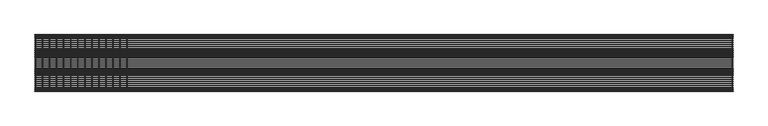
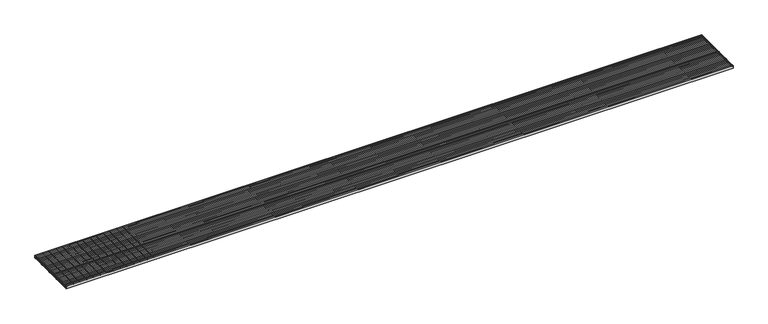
"""IFC4 building model written with IfcOpenShell, lengths in millimetres: proxy geometry, ARQ-PAS-Osogrid-Ace : ARQ-PAS-Osogrid-Ace."""

from ifc_helpers import new_model, si_unit, point, frame, frame_2d, origin, origin_with_axes, place, context, project, spatial, polyline, circle_curve, trimmed, segment, composite_curve, outline, extrude, source, transform, mapped, element, save


def generic_models_1a0a9cd3(model_context):
    return source(origin(), model_context, "Body", "SweptSolid", [
        extrude(outline(composite_curve([segment(trimmed(circle_curve(frame_2d((30.343695, -8342.1025358)), 3.0), [point((30.343695, -8345.1025358))], [point((30.343695, -8339.1025358))], False, "CARTESIAN"), True, "CONTINUOUS"), segment(trimmed(circle_curve(frame_2d((30.343695, -8342.1025358)), 3.0), [point((30.343695, -8339.1025358))], [point((30.343695, -8345.1025358))], False, "CARTESIAN"), True, "CONTINUOUS")], self_intersect=False)), frame((0.0, 2.5, 0.0), z_axis=(0.0, 1.0, 0.0), x_axis=(0.0, 0.0, 1.0)), (0.0, 0.0, 1.0), 775.0),
        extrude(outline(composite_curve([segment(trimmed(circle_curve(frame_2d((30.343695, -8438.9712227)), 3.0), [point((30.343695, -8441.9712227))], [point((30.343695, -8435.9712227))], False, "CARTESIAN"), True, "CONTINUOUS"), segment(trimmed(circle_curve(frame_2d((30.343695, -8438.9712227)), 3.0), [point((30.343695, -8435.9712227))], [point((30.343695, -8441.9712227))], False, "CARTESIAN"), True, "CONTINUOUS")], self_intersect=False)), frame((0.0, 2.5, 0.0), z_axis=(0.0, 1.0, 0.0), x_axis=(0.0, 0.0, 1.0)), (0.0, 0.0, 1.0), 775.0),
        extrude(outline(composite_curve([segment(trimmed(circle_curve(frame_2d((30.343695, -8535.8399096)), 3.0), [point((30.343695, -8538.8399096))], [point((30.343695, -8532.8399096))], False, "CARTESIAN"), True, "CONTINUOUS"), segment(trimmed(circle_curve(frame_2d((30.343695, -8535.8399096)), 3.0), [point((30.343695, -8532.8399096))], [point((30.343695, -8538.8399096))], False, "CARTESIAN"), True, "CONTINUOUS")], self_intersect=False)), frame((0.0, 2.5, 0.0), z_axis=(0.0, 1.0, 0.0), x_axis=(0.0, 0.0, 1.0)), (0.0, 0.0, 1.0), 775.0),
        extrude(outline(composite_curve([segment(trimmed(circle_curve(frame_2d((30.343695, -8632.7085964)), 3.0), [point((30.343695, -8635.7085964))], [point((30.343695, -8629.7085964))], False, "CARTESIAN"), True, "CONTINUOUS"), segment(trimmed(circle_curve(frame_2d((30.343695, -8632.7085964)), 3.0), [point((30.343695, -8629.7085964))], [point((30.343695, -8635.7085964))], False, "CARTESIAN"), True, "CONTINUOUS")], self_intersect=False)), frame((0.0, 2.5, 0.0), z_axis=(0.0, 1.0, 0.0), x_axis=(0.0, 0.0, 1.0)), (0.0, 0.0, 1.0), 775.0),
        extrude(outline(composite_curve([segment(trimmed(circle_curve(frame_2d((30.343695, -8729.5772833)), 3.0), [point((30.343695, -8732.5772833))], [point((30.343695, -8726.5772833))], False, "CARTESIAN"), True, "CONTINUOUS"), segment(trimmed(circle_curve(frame_2d((30.343695, -8729.5772833)), 3.0), [point((30.343695, -8726.5772833))], [point((30.343695, -8732.5772833))], False, "CARTESIAN"), True, "CONTINUOUS")], self_intersect=False)), frame((0.0, 2.5, 0.0), z_axis=(0.0, 1.0, 0.0), x_axis=(0.0, 0.0, 1.0)), (0.0, 0.0, 1.0), 775.0),
        extrude(outline(composite_curve([segment(trimmed(circle_curve(frame_2d((30.343695, -8826.4459702)), 3.0), [point((30.343695, -8829.4459702))], [point((30.343695, -8823.4459702))], False, "CARTESIAN"), True, "CONTINUOUS"), segment(trimmed(circle_curve(frame_2d((30.343695, -8826.4459702)), 3.0), [point((30.343695, -8823.4459702))], [point((30.343695, -8829.4459702))], False, "CARTESIAN"), True, "CONTINUOUS")], self_intersect=False)), frame((0.0, 2.5, 0.0), z_axis=(0.0, 1.0, 0.0), x_axis=(0.0, 0.0, 1.0)), (0.0, 0.0, 1.0), 775.0),
        extrude(outline(composite_curve([segment(trimmed(circle_curve(frame_2d((30.343695, -8923.314657)), 3.0), [point((30.343695, -8926.314657))], [point((30.343695, -8920.314657))], False, "CARTESIAN"), True, "CONTINUOUS"), segment(trimmed(circle_curve(frame_2d((30.343695, -8923.314657)), 3.0), [point((30.343695, -8920.314657))], [point((30.343695, -8926.314657))], False, "CARTESIAN"), True, "CONTINUOUS")], self_intersect=False)), frame((0.0, 2.5, 0.0), z_axis=(0.0, 1.0, 0.0), x_axis=(0.0, 0.0, 1.0)), (0.0, 0.0, 1.0), 775.0),
        extrude(outline(composite_curve([segment(trimmed(circle_curve(frame_2d((30.343695, -9020.1833439)), 3.0), [point((30.343695, -9023.1833439))], [point((30.343695, -9017.1833439))], False, "CARTESIAN"), True, "CONTINUOUS"), segment(trimmed(circle_curve(frame_2d((30.343695, -9020.1833439)), 3.0), [point((30.343695, -9017.1833439))], [point((30.343695, -9023.1833439))], False, "CARTESIAN"), True, "CONTINUOUS")], self_intersect=False)), frame((0.0, 2.5, 0.0), z_axis=(0.0, 1.0, 0.0), x_axis=(0.0, 0.0, 1.0)), (0.0, 0.0, 1.0), 775.0),
        extrude(outline(composite_curve([segment(trimmed(circle_curve(frame_2d((30.343695, -9117.0520308)), 3.0), [point((30.343695, -9120.0520308))], [point((30.343695, -9114.0520308))], False, "CARTESIAN"), True, "CONTINUOUS"), segment(trimmed(circle_curve(frame_2d((30.343695, -9117.0520308)), 3.0), [point((30.343695, -9114.0520308))], [point((30.343695, -9120.0520308))], False, "CARTESIAN"), True, "CONTINUOUS")], self_intersect=False)), frame((0.0, 2.5, 0.0), z_axis=(0.0, 1.0, 0.0), x_axis=(0.0, 0.0, 1.0)), (0.0, 0.0, 1.0), 775.0),
        extrude(outline(composite_curve([segment(trimmed(circle_curve(frame_2d((30.343695, -9213.9207177)), 3.0), [point((30.343695, -9216.9207177))], [point((30.343695, -9210.9207177))], False, "CARTESIAN"), True, "CONTINUOUS"), segment(trimmed(circle_curve(frame_2d((30.343695, -9213.9207177)), 3.0), [point((30.343695, -9210.9207177))], [point((30.343695, -9216.9207177))], False, "CARTESIAN"), True, "CONTINUOUS")], self_intersect=False)), frame((0.0, 2.5, 0.0), z_axis=(0.0, 1.0, 0.0), x_axis=(0.0, 0.0, 1.0)), (0.0, 0.0, 1.0), 775.0),
        extrude(outline(composite_curve([segment(trimmed(circle_curve(frame_2d((30.343695, -9310.7894045)), 3.0), [point((30.343695, -9313.7894045))], [point((30.343695, -9307.7894045))], False, "CARTESIAN"), True, "CONTINUOUS"), segment(trimmed(circle_curve(frame_2d((30.343695, -9310.7894045)), 3.0), [point((30.343695, -9307.7894045))], [point((30.343695, -9313.7894045))], False, "CARTESIAN"), True, "CONTINUOUS")], self_intersect=False)), frame((0.0, 2.5, 0.0), z_axis=(0.0, 1.0, 0.0), x_axis=(0.0, 0.0, 1.0)), (0.0, 0.0, 1.0), 775.0),
        extrude(outline(composite_curve([segment(trimmed(circle_curve(frame_2d((30.343695, -9407.6580914)), 3.0), [point((30.343695, -9410.6580914))], [point((30.343695, -9404.6580914))], False, "CARTESIAN"), True, "CONTINUOUS"), segment(trimmed(circle_curve(frame_2d((30.343695, -9407.6580914)), 3.0), [point((30.343695, -9404.6580914))], [point((30.343695, -9410.6580914))], False, "CARTESIAN"), True, "CONTINUOUS")], self_intersect=False)), frame((0.0, 2.5, 0.0), z_axis=(0.0, 1.0, 0.0), x_axis=(0.0, 0.0, 1.0)), (0.0, 0.0, 1.0), 775.0),
        extrude(outline(composite_curve([segment(trimmed(circle_curve(frame_2d((30.343695, -9504.5267783)), 3.0), [point((30.343695, -9507.5267783))], [point((30.343695, -9501.5267783))], False, "CARTESIAN"), True, "CONTINUOUS"), segment(trimmed(circle_curve(frame_2d((30.343695, -9504.5267783)), 3.0), [point((30.343695, -9501.5267783))], [point((30.343695, -9507.5267783))], False, "CARTESIAN"), True, "CONTINUOUS")], self_intersect=False)), frame((0.0, 2.5, 0.0), z_axis=(0.0, 1.0, 0.0), x_axis=(0.0, 0.0, 1.0)), (0.0, 0.0, 1.0), 775.0),
        extrude(outline(composite_curve([segment(trimmed(circle_curve(frame_2d((30.343695, -11.3954651)), 3.0), [point((30.343695, -14.3954651))], [point((30.343695, -8.3954651))], False, "CARTESIAN"), True, "CONTINUOUS"), segment(trimmed(circle_curve(frame_2d((30.343695, -11.3954651)), 3.0), [point((30.343695, -8.3954651))], [point((30.343695, -14.3954651))], False, "CARTESIAN"), True, "CONTINUOUS")], self_intersect=False)), frame((0.0, 2.5, 0.0), z_axis=(0.0, 1.0, 0.0), x_axis=(0.0, 0.0, 1.0)), (0.0, 0.0, 1.0), 775.0),
        extrude(outline(composite_curve([segment(trimmed(circle_curve(frame_2d((30.343695, -9601.3954651)), 3.0), [point((30.343695, -9604.3954651))], [point((30.343695, -9598.3954651))], False, "CARTESIAN"), True, "CONTINUOUS"), segment(trimmed(circle_curve(frame_2d((30.343695, -9601.3954651)), 3.0), [point((30.343695, -9598.3954651))], [point((30.343695, -9604.3954651))], False, "CARTESIAN"), True, "CONTINUOUS")], self_intersect=False)), frame((0.0, 2.5, 0.0), z_axis=(0.0, 1.0, 0.0), x_axis=(0.0, 0.0, 1.0)), (0.0, 0.0, 1.0), 775.0),
        extrude(outline(polyline([(0.0, 753.1896552), (0.0, 750.6896552), (-9610.0, 750.6896552), (-9610.0, 753.1896552), (0.0, 753.1896552)])), origin_with_axes(), (0.0, 0.0, 1.0), 35.0),
        extrude(outline(polyline([(0.0, 726.3793103), (0.0, 723.8793103), (-9610.0, 723.8793103), (-9610.0, 726.3793103), (0.0, 726.3793103)])), origin_with_axes(), (0.0, 0.0, 1.0), 35.0),
        extrude(outline(polyline([(0.0, 699.5689655), (0.0, 697.0689655), (-9610.0, 697.0689655), (-9610.0, 699.5689655), (0.0, 699.5689655)])), origin_with_axes(), (0.0, 0.0, 1.0), 35.0),
        extrude(outline(polyline([(0.0, 672.7586207), (0.0, 670.2586207), (-9610.0, 670.2586207), (-9610.0, 672.7586207), (0.0, 672.7586207)])), origin_with_axes(), (0.0, 0.0, 1.0), 35.0),
        extrude(outline(polyline([(0.0, 645.9482759), (0.0, 643.4482759), (-9610.0, 643.4482759), (-9610.0, 645.9482759), (0.0, 645.9482759)])), origin_with_axes(), (0.0, 0.0, 1.0), 35.0),
        extrude(outline(polyline([(0.0, 619.137931), (0.0, 616.637931), (-9610.0, 616.637931), (-9610.0, 619.137931), (0.0, 619.137931)])), origin_with_axes(), (0.0, 0.0, 1.0), 35.0),
        extrude(outline(polyline([(0.0, 592.3275862), (0.0, 589.8275862), (-9610.0, 589.8275862), (-9610.0, 592.3275862), (0.0, 592.3275862)])), origin_with_axes(), (0.0, 0.0, 1.0), 35.0),
        extrude(outline(polyline([(0.0, 565.5172414), (0.0, 563.0172414), (-9610.0, 563.0172414), (-9610.0, 565.5172414), (0.0, 565.5172414)])), origin_with_axes(), (0.0, 0.0, 1.0), 35.0),
        extrude(outline(polyline([(0.0, 538.7068966), (0.0, 536.2068966), (-9610.0, 536.2068966), (-9610.0, 538.7068966), (0.0, 538.7068966)])), origin_with_axes(), (0.0, 0.0, 1.0), 35.0),
        extrude(outline(polyline([(0.0, 511.8965517), (0.0, 509.3965517), (-9610.0, 509.3965517), (-9610.0, 511.8965517), (0.0, 511.8965517)])), origin_with_axes(), (0.0, 0.0, 1.0), 35.0),
        extrude(outline(polyline([(0.0, 485.0862069), (0.0, 482.5862069), (-9610.0, 482.5862069), (-9610.0, 485.0862069), (0.0, 485.0862069)])), origin_with_axes(), (0.0, 0.0, 1.0), 35.0),
        extrude(outline(polyline([(0.0, 458.2758621), (0.0, 455.7758621), (-9610.0, 455.7758621), (-9610.0, 458.2758621), (0.0, 458.2758621)])), origin_with_axes(), (0.0, 0.0, 1.0), 35.0),
        extrude(outline(polyline([(0.0, 431.4655172), (0.0, 428.9655172), (-9610.0, 428.9655172), (-9610.0, 431.4655172), (0.0, 431.4655172)])), origin_with_axes(), (0.0, 0.0, 1.0), 35.0),
        extrude(outline(polyline([(0.0, 404.6551724), (0.0, 402.1551724), (-9610.0, 402.1551724), (-9610.0, 404.6551724), (0.0, 404.6551724)])), origin_with_axes(), (0.0, 0.0, 1.0), 35.0),
        extrude(outline(polyline([(0.0, 377.8448276), (0.0, 375.3448276), (-9610.0, 375.3448276), (-9610.0, 377.8448276), (0.0, 377.8448276)])), origin_with_axes(), (0.0, 0.0, 1.0), 35.0),
        extrude(outline(polyline([(0.0, 351.0344828), (0.0, 348.5344828), (-9610.0, 348.5344828), (-9610.0, 351.0344828), (0.0, 351.0344828)])), origin_with_axes(), (0.0, 0.0, 1.0), 35.0),
        extrude(outline(polyline([(0.0, 324.2241379), (0.0, 321.7241379), (-9610.0, 321.7241379), (-9610.0, 324.2241379), (0.0, 324.2241379)])), origin_with_axes(), (0.0, 0.0, 1.0), 35.0),
        extrude(outline(polyline([(0.0, 297.4137931), (0.0, 294.9137931), (-9610.0, 294.9137931), (-9610.0, 297.4137931), (0.0, 297.4137931)])), origin_with_axes(), (0.0, 0.0, 1.0), 35.0),
        extrude(outline(polyline([(0.0, 270.6034483), (0.0, 268.1034483), (-9610.0, 268.1034483), (-9610.0, 270.6034483), (0.0, 270.6034483)])), origin_with_axes(), (0.0, 0.0, 1.0), 35.0),
        extrude(outline(polyline([(0.0, 243.7931034), (0.0, 241.2931034), (-9610.0, 241.2931034), (-9610.0, 243.7931034), (0.0, 243.7931034)])), origin_with_axes(), (0.0, 0.0, 1.0), 35.0),
        extrude(outline(polyline([(0.0, 216.9827586), (0.0, 214.4827586), (-9610.0, 214.4827586), (-9610.0, 216.9827586), (0.0, 216.9827586)])), origin_with_axes(), (0.0, 0.0, 1.0), 35.0),
        extrude(outline(polyline([(0.0, 190.1724138), (0.0, 187.6724138), (-9610.0, 187.6724138), (-9610.0, 190.1724138), (0.0, 190.1724138)])), origin_with_axes(), (0.0, 0.0, 1.0), 35.0),
        extrude(outline(polyline([(0.0, 163.362069), (0.0, 160.862069), (-9610.0, 160.862069), (-9610.0, 163.362069), (0.0, 163.362069)])), origin_with_axes(), (0.0, 0.0, 1.0), 35.0),
        extrude(outline(polyline([(0.0, 136.5517241), (0.0, 134.0517241), (-9610.0, 134.0517241), (-9610.0, 136.5517241), (0.0, 136.5517241)])), origin_with_axes(), (0.0, 0.0, 1.0), 35.0),
        extrude(outline(polyline([(0.0, 109.7413793), (0.0, 107.2413793), (-9610.0, 107.2413793), (-9610.0, 109.7413793), (0.0, 109.7413793)])), origin_with_axes(), (0.0, 0.0, 1.0), 35.0),
        extrude(outline(polyline([(0.0, 82.9310345), (0.0, 80.4310345), (-9610.0, 80.4310345), (-9610.0, 82.9310345), (0.0, 82.9310345)])), origin_with_axes(), (0.0, 0.0, 1.0), 35.0),
        extrude(outline(polyline([(0.0, 56.1206897), (0.0, 53.6206897), (-9610.0, 53.6206897), (-9610.0, 56.1206897), (0.0, 56.1206897)])), origin_with_axes(), (0.0, 0.0, 1.0), 35.0),
        extrude(outline(polyline([(0.0, 29.3103448), (0.0, 26.8103448), (-9610.0, 26.8103448), (-9610.0, 29.3103448), (0.0, 29.3103448)])), origin_with_axes(), (0.0, 0.0, 1.0), 35.0),
        extrude(outline(polyline([(0.0, 780.0), (0.0, 777.5), (-9610.0, 777.5), (-9610.0, 780.0), (0.0, 780.0)])), origin_with_axes(), (0.0, 0.0, 1.0), 35.0),
        extrude(outline(polyline([(0.0, 2.5), (0.0, 0.0), (-9610.0, 0.0), (-9610.0, 2.5), (0.0, 2.5)])), origin_with_axes(), (0.0, 0.0, 1.0), 35.0),
    ])


if __name__ == "__main__":
    model = new_model("IFC4")
    model_context = context("Model", 3, world=origin())
    ifc_project = project(units=[si_unit("LENGTHUNIT", "METRE", prefix="MILLI")], contexts=[model_context])
    site = spatial("IfcSite", under=ifc_project)
    building = spatial("IfcBuilding", under=site)
    placement = place(None, origin())
    generic_models_shape = generic_models_1a0a9cd3(model_context)
    element("IfcBuildingElementProxy", 1, Name="ARQ-PAS-Osogrid-Ace : ARQ-PAS-Osogrid-Ace", ObjectType="ARQ-PAS-Osogrid-Ace : ARQ-PAS-Osogrid-Ace", at=placement, inside=building, context=model_context, shape_type="MappedRepresentation", body=[
        mapped(generic_models_shape, transform((0.0, 0.0, 0.0), x_axis=(1.0, 0.0, 0.0), y_axis=(0.0, 1.0, 0.0), z_axis=(0.0, 0.0, 1.0))),
    ])
    save(model, "model.ifc")
